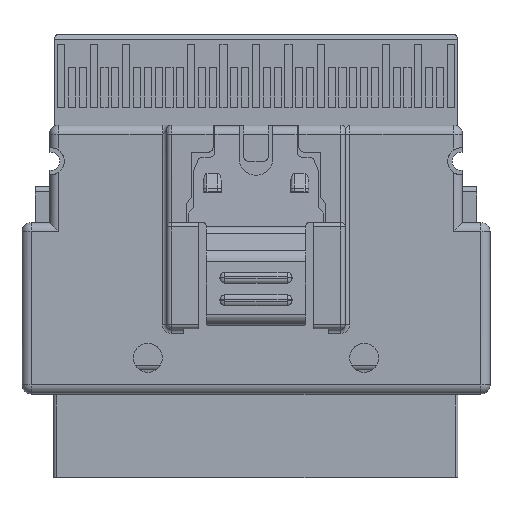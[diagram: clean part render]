
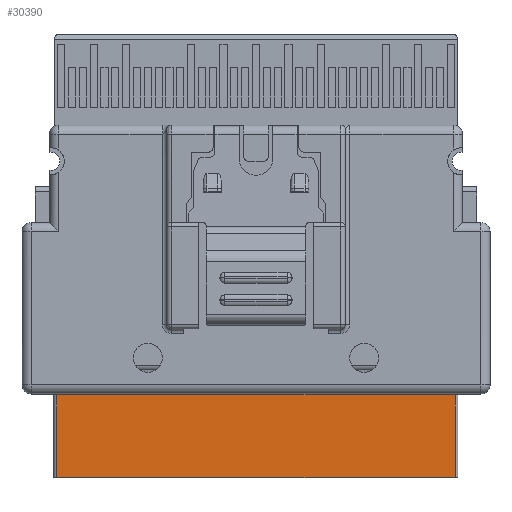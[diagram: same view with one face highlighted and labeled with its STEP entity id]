
A CAD part, top view. The second image highlights one B-rep face of the part: STEP entity #30390.
In plain terms, the highlighted planar face has unit normal (0, 0, 1) as drawn and (0, 1, 0) by its records, which use the part's own axes.
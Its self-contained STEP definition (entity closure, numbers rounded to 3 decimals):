
#29692=DIRECTION('',(0.,0.,1.));
#29693=VECTOR('',#29692,22.11);
#29694=CARTESIAN_POINT('',(-7.,0.31,-11.055));
#29695=LINE('',#29694,#29693);
#29859=DIRECTION('',(0.,0.,-1.));
#29860=VECTOR('',#29859,22.11);
#29861=CARTESIAN_POINT('',(-2.403,0.31,11.055));
#29862=LINE('',#29861,#29860);
#29863=DIRECTION('',(-1.,0.,0.));
#29864=VECTOR('',#29863,4.597);
#29865=CARTESIAN_POINT('',(-2.403,0.31,-11.055));
#29866=LINE('',#29865,#29864);
#30002=DIRECTION('',(1.,0.,0.));
#30003=VECTOR('',#30002,4.597);
#30004=CARTESIAN_POINT('',(-7.,0.31,11.055));
#30005=LINE('',#30004,#30003);
#30026=CARTESIAN_POINT('',(-7.,0.31,-11.055));
#30027=VERTEX_POINT('',#30026);
#30028=CARTESIAN_POINT('',(-7.,0.31,11.055));
#30029=VERTEX_POINT('',#30028);
#30060=CARTESIAN_POINT('',(-2.403,0.31,11.055));
#30061=VERTEX_POINT('',#30060);
#30082=CARTESIAN_POINT('',(-2.403,0.31,-11.055));
#30083=VERTEX_POINT('',#30082);
#30377=CARTESIAN_POINT('',(-10.,0.31,0.64));
#30378=DIRECTION('',(0.,1.,0.));
#30379=DIRECTION('',(0.,0.,1.));
#30380=AXIS2_PLACEMENT_3D('',#30377,#30378,#30379);
#30381=PLANE('',#30380);
#30382=ORIENTED_EDGE('',*,*,#30130,.F.);
#30384=ORIENTED_EDGE('',*,*,#30383,.F.);
#30385=ORIENTED_EDGE('',*,*,#30370,.F.);
#30387=ORIENTED_EDGE('',*,*,#30386,.F.);
#30388=EDGE_LOOP('',(#30382,#30384,#30385,#30387));
#30389=FACE_OUTER_BOUND('',#30388,.F.);
#30390=ADVANCED_FACE('',(#30389),#30381,.T.);
#30130=EDGE_CURVE('',#30027,#30029,#29695,.T.);
#30370=EDGE_CURVE('',#30061,#30083,#29862,.T.);
#30383=EDGE_CURVE('',#30083,#30027,#29866,.T.);
#30386=EDGE_CURVE('',#30029,#30061,#30005,.T.);
